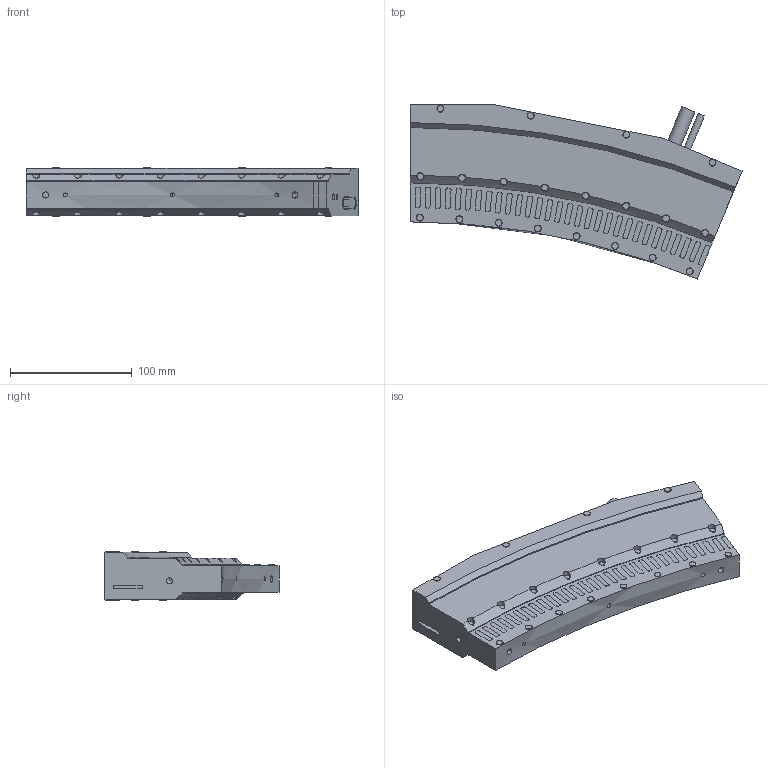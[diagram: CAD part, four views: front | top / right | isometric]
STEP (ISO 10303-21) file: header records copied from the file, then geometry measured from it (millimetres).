
FILE_DESCRIPTION(/* description */ ('AT2026-0250-0003'),/* implementation_level */ '2;1');
FILE_NAME(/* name */ '0000018273_AT2026-0250-0003.stp',/* time_stamp */ '2024-04-26T10:54:02+02:00',/* author */ ('PhilE'),/* organization */ (''),/* preprocessor_version */ 'ST-DEVELOPER v20',/* originating_system */ 'Autodesk Inventor 2024',/* authorisation */ '');
FILE_SCHEMA (('AUTOMOTIVE_DESIGN { 1 0 10303 214 3 1 1 }'));
Length unit declared in the file: millimetre
Products named in the file (1): 0000018273_AT2026-0250-0003
Bounding box: 272.71 x 142.94 x 40.1 mm (x, y, z)
Volume: 785223.7 mm3; surface area: 80799.3 mm2
Topology: 1 solids, 2 shells, 323 faces, 1078 edges, 875 vertices
Faces by surface type: plane 176, cylinder 92, torus 44, cone 11
Full cylindrical faces by diameter (mm): 3.3 x3, 4.134 x4, 5 x6, 5.5 x1, 5.7 x40, 6 x16, 11.6 x1, 12 x1
Entity records: 13237 total; most frequent: CARTESIAN_POINT 2809, DIRECTION 2262, ORIENTED_EDGE 2140, EDGE_CURVE 1070, AXIS2_PLACEMENT_3D 900, VERTEX_POINT 875, CIRCLE 576, LINE 462
